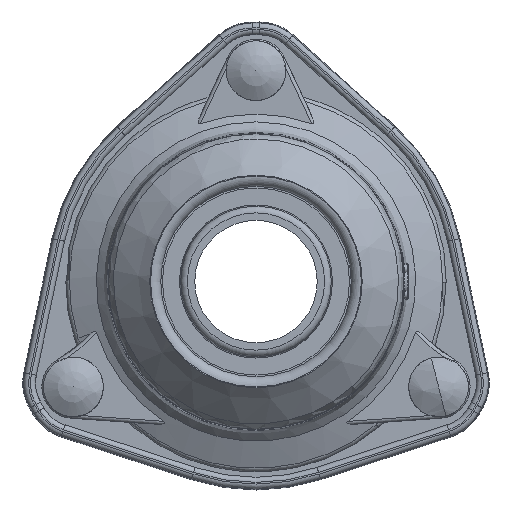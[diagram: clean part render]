
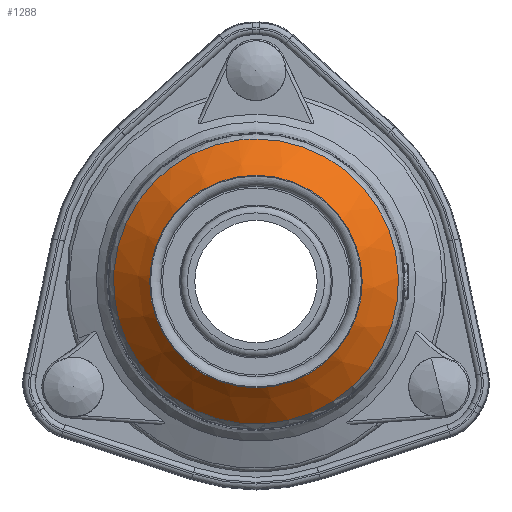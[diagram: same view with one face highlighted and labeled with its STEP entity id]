
A CAD part, left-side view. The second image highlights one B-rep face of the part: STEP entity #1288.
In plain terms, the highlighted conical face has half-angle 46.259 degrees and reference radius 69.409 mm.
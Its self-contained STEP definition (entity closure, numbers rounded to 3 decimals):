
#1143=CARTESIAN_POINT('',(-106.692,0.0,0.0));
#1144=DIRECTION('',(1.0,0.0,0.0));
#1145=DIRECTION('',(0.0,1.0,0.0));
#1146=AXIS2_PLACEMENT_3D('',#1143,#1144,#1145);
#1147=CONICAL_SURFACE('',#1146,69.409,46.259);
#1148=CARTESIAN_POINT('',(-120.483,-6.828,54.572));
#1149=VERTEX_POINT('',#1148);
#1150=CARTESIAN_POINT('',(-120.483,6.828,54.572));
#1151=VERTEX_POINT('',#1150);
#1152=CARTESIAN_POINT('',(-120.483,0.0,0.0));
#1153=DIRECTION('',(1.0,0.0,0.0));
#1154=DIRECTION('',(0.0,1.0,0.0));
#1155=AXIS2_PLACEMENT_3D('',#1152,#1153,#1154);
#1156=CIRCLE('',#1155,54.998);
#1157=EDGE_CURVE('',#1149,#1151,#1156,.T.);
#1158=ORIENTED_EDGE('',*,*,#1157,.T.);
#1159=CARTESIAN_POINT('',(-120.43,6.828,54.628));
#1160=VERTEX_POINT('',#1159);
#1161=CARTESIAN_POINT('',(-120.43,6.828,54.628));
#1162=DIRECTION('',(-0.689,-0.002,-0.725));
#1163=VECTOR('',#1162,0.076);
#1164=LINE('',#1161,#1163);
#1165=EDGE_CURVE('',#1160,#1151,#1164,.T.);
#1166=ORIENTED_EDGE('',*,*,#1165,.F.);
#1167=CARTESIAN_POINT('',(-116.948,2.931,58.619));
#1168=VERTEX_POINT('',#1167);
#1169=CARTESIAN_POINT('',(-116.948,2.931,58.619));
#1170=CARTESIAN_POINT('',(-116.939,3.102,58.619));
#1171=CARTESIAN_POINT('',(-116.941,3.275,58.608));
#1172=CARTESIAN_POINT('',(-116.954,3.445,58.585));
#1173=CARTESIAN_POINT('',(-116.966,3.616,58.562));
#1174=CARTESIAN_POINT('',(-116.989,3.784,58.527));
#1175=CARTESIAN_POINT('',(-117.021,3.948,58.483));
#1176=CARTESIAN_POINT('',(-117.053,4.111,58.438));
#1177=CARTESIAN_POINT('',(-117.095,4.268,58.383));
#1178=CARTESIAN_POINT('',(-117.145,4.421,58.319));
#1179=CARTESIAN_POINT('',(-117.195,4.573,58.255));
#1180=CARTESIAN_POINT('',(-117.254,4.72,58.181));
#1181=CARTESIAN_POINT('',(-117.319,4.859,58.101));
#1182=CARTESIAN_POINT('',(-117.352,4.929,58.06));
#1183=CARTESIAN_POINT('',(-117.387,4.996,58.018));
#1184=CARTESIAN_POINT('',(-117.423,5.062,57.975));
#1185=CARTESIAN_POINT('',(-117.459,5.127,57.931));
#1186=CARTESIAN_POINT('',(-117.497,5.19,57.886));
#1187=CARTESIAN_POINT('',(-117.536,5.252,57.84));
#1188=CARTESIAN_POINT('',(-117.614,5.375,57.747));
#1189=CARTESIAN_POINT('',(-117.698,5.491,57.648));
#1190=CARTESIAN_POINT('',(-117.787,5.6,57.544));
#1191=CARTESIAN_POINT('',(-117.875,5.708,57.44));
#1192=CARTESIAN_POINT('',(-117.969,5.809,57.331));
#1193=CARTESIAN_POINT('',(-118.067,5.902,57.219));
#1194=CARTESIAN_POINT('',(-118.164,5.996,57.107));
#1195=CARTESIAN_POINT('',(-118.265,6.081,56.992));
#1196=CARTESIAN_POINT('',(-118.369,6.159,56.875));
#1197=CARTESIAN_POINT('',(-118.472,6.236,56.757));
#1198=CARTESIAN_POINT('',(-118.578,6.306,56.638));
#1199=CARTESIAN_POINT('',(-118.687,6.37,56.517));
#1200=CARTESIAN_POINT('',(-118.795,6.433,56.396));
#1201=CARTESIAN_POINT('',(-118.907,6.49,56.272));
#1202=CARTESIAN_POINT('',(-119.02,6.539,56.148));
#1203=CARTESIAN_POINT('',(-119.245,6.639,55.898));
#1204=CARTESIAN_POINT('',(-119.478,6.711,55.645));
#1205=CARTESIAN_POINT('',(-119.714,6.759,55.391));
#1206=CARTESIAN_POINT('',(-119.95,6.807,55.137));
#1207=CARTESIAN_POINT('',(-120.189,6.829,54.882));
#1208=CARTESIAN_POINT('',(-120.43,6.828,54.628));
#1209=B_SPLINE_CURVE_WITH_KNOTS('',3,(#1169,#1170,#1171,#1172,#1173,#1174,#1175,#1176,#1177,#1178,#1179,#1180,#1181,#1182,#1183,#1184,#1185,#1186,#1187,#1188,#1189,#1190,#1191,#1192,#1193,#1194,#1195,#1196,#1197,#1198,#1199,#1200,#1201,#1202,#1203,#1204,#1205,#1206,#1207,#1208),.UNSPECIFIED.,.F.,.U.,(4,3,3,3,3,3,3,3,3,3,3,3,3,4),(0.,0.053,0.105,0.158,0.21,0.236,0.263,0.315,0.368,0.42,0.473,0.525,0.63,0.735),.UNSPECIFIED.);
#1210=EDGE_CURVE('',#1168,#1160,#1209,.T.);
#1211=ORIENTED_EDGE('',*,*,#1210,.F.);
#1212=CARTESIAN_POINT('',(-116.948,-2.931,58.619));
#1213=VERTEX_POINT('',#1212);
#1214=CARTESIAN_POINT('',(-116.948,-2.931,58.619));
#1215=CARTESIAN_POINT('',(-117.043,-0.979,58.617));
#1216=CARTESIAN_POINT('',(-117.043,0.979,58.617));
#1217=CARTESIAN_POINT('',(-116.948,2.931,58.619));
#1218=B_SPLINE_CURVE_WITH_KNOTS('',3,(#1214,#1215,#1216,#1217),.UNSPECIFIED.,.F.,.U.,(4,4),(-0.6,0.0),.UNSPECIFIED.);
#1219=EDGE_CURVE('',#1213,#1168,#1218,.T.);
#1220=ORIENTED_EDGE('',*,*,#1219,.F.);
#1221=CARTESIAN_POINT('',(-120.43,-6.828,54.628));
#1222=VERTEX_POINT('',#1221);
#1223=CARTESIAN_POINT('',(-120.43,-6.828,54.628));
#1224=CARTESIAN_POINT('',(-120.189,-6.829,54.882));
#1225=CARTESIAN_POINT('',(-119.95,-6.807,55.137));
#1226=CARTESIAN_POINT('',(-119.714,-6.759,55.391));
#1227=CARTESIAN_POINT('',(-119.241,-6.664,55.9));
#1228=CARTESIAN_POINT('',(-118.781,-6.468,56.407));
#1229=CARTESIAN_POINT('',(-118.368,-6.158,56.876));
#1230=CARTESIAN_POINT('',(-118.342,-6.138,56.905));
#1231=CARTESIAN_POINT('',(-118.316,-6.118,56.934));
#1232=CARTESIAN_POINT('',(-118.291,-6.098,56.963));
#1233=CARTESIAN_POINT('',(-118.265,-6.078,56.992));
#1234=CARTESIAN_POINT('',(-118.24,-6.057,57.021));
#1235=CARTESIAN_POINT('',(-118.215,-6.035,57.05));
#1236=CARTESIAN_POINT('',(-118.164,-5.993,57.107));
#1237=CARTESIAN_POINT('',(-118.115,-5.948,57.164));
#1238=CARTESIAN_POINT('',(-118.066,-5.902,57.22));
#1239=CARTESIAN_POINT('',(-117.969,-5.808,57.332));
#1240=CARTESIAN_POINT('',(-117.875,-5.707,57.441));
#1241=CARTESIAN_POINT('',(-117.786,-5.599,57.544));
#1242=CARTESIAN_POINT('',(-117.742,-5.545,57.596));
#1243=CARTESIAN_POINT('',(-117.698,-5.489,57.647));
#1244=CARTESIAN_POINT('',(-117.656,-5.431,57.696));
#1245=CARTESIAN_POINT('',(-117.615,-5.373,57.746));
#1246=CARTESIAN_POINT('',(-117.574,-5.313,57.794));
#1247=CARTESIAN_POINT('',(-117.535,-5.251,57.84));
#1248=CARTESIAN_POINT('',(-117.496,-5.19,57.887));
#1249=CARTESIAN_POINT('',(-117.459,-5.126,57.932));
#1250=CARTESIAN_POINT('',(-117.423,-5.061,57.975));
#1251=CARTESIAN_POINT('',(-117.405,-5.028,57.997));
#1252=CARTESIAN_POINT('',(-117.387,-4.995,58.019));
#1253=CARTESIAN_POINT('',(-117.37,-4.961,58.04));
#1254=CARTESIAN_POINT('',(-117.352,-4.927,58.061));
#1255=CARTESIAN_POINT('',(-117.335,-4.893,58.081));
#1256=CARTESIAN_POINT('',(-117.319,-4.858,58.101));
#1257=CARTESIAN_POINT('',(-117.188,-4.58,58.262));
#1258=CARTESIAN_POINT('',(-117.085,-4.274,58.393));
#1259=CARTESIAN_POINT('',(-117.021,-3.947,58.483));
#1260=CARTESIAN_POINT('',(-116.989,-3.784,58.527));
#1261=CARTESIAN_POINT('',(-116.966,-3.616,58.562));
#1262=CARTESIAN_POINT('',(-116.954,-3.446,58.585));
#1263=CARTESIAN_POINT('',(-116.941,-3.275,58.608));
#1264=CARTESIAN_POINT('',(-116.939,-3.102,58.619));
#1265=CARTESIAN_POINT('',(-116.948,-2.931,58.619));
#1266=B_SPLINE_CURVE_WITH_KNOTS('',3,(#1223,#1224,#1225,#1226,#1227,#1228,#1229,#1230,#1231,#1232,#1233,#1234,#1235,#1236,#1237,#1238,#1239,#1240,#1241,#1242,#1243,#1244,#1245,#1246,#1247,#1248,#1249,#1250,#1251,#1252,#1253,#1254,#1255,#1256,#1257,#1258,#1259,#1260,#1261,#1262,#1263,#1264,#1265),.UNSPECIFIED.,.F.,.U.,(4,3,3,3,3,3,3,3,3,3,3,3,3,3,4),(0.,0.105,0.315,0.328,0.341,0.368,0.42,0.446,0.473,0.499,0.512,0.525,0.63,0.683,0.735),.UNSPECIFIED.);
#1267=EDGE_CURVE('',#1222,#1213,#1266,.T.);
#1268=ORIENTED_EDGE('',*,*,#1267,.F.);
#1269=CARTESIAN_POINT('',(-120.483,-6.828,54.572));
#1270=DIRECTION('',(0.689,-0.002,0.725));
#1271=VECTOR('',#1270,0.076);
#1272=LINE('',#1269,#1271);
#1273=EDGE_CURVE('',#1149,#1222,#1272,.T.);
#1274=ORIENTED_EDGE('',*,*,#1273,.F.);
#1275=EDGE_LOOP('',(#1158,#1166,#1211,#1220,#1268,#1274));
#1276=FACE_OUTER_BOUND('',#1275,.T.);
#1277=CARTESIAN_POINT('',(-92.901,0.,83.82));
#1278=VERTEX_POINT('',#1277);
#1279=CARTESIAN_POINT('',(-92.901,0.0,0.0));
#1280=DIRECTION('',(1.0,0.0,0.0));
#1281=DIRECTION('',(0.0,1.0,0.0));
#1282=AXIS2_PLACEMENT_3D('',#1279,#1280,#1281);
#1283=CIRCLE('',#1282,83.82);
#1284=EDGE_CURVE('',#1278,#1278,#1283,.T.);
#1285=ORIENTED_EDGE('',*,*,#1284,.F.);
#1286=EDGE_LOOP('',(#1285));
#1287=FACE_BOUND('',#1286,.T.);
#1288=ADVANCED_FACE('',(#1276,#1287),#1147,.T.);
